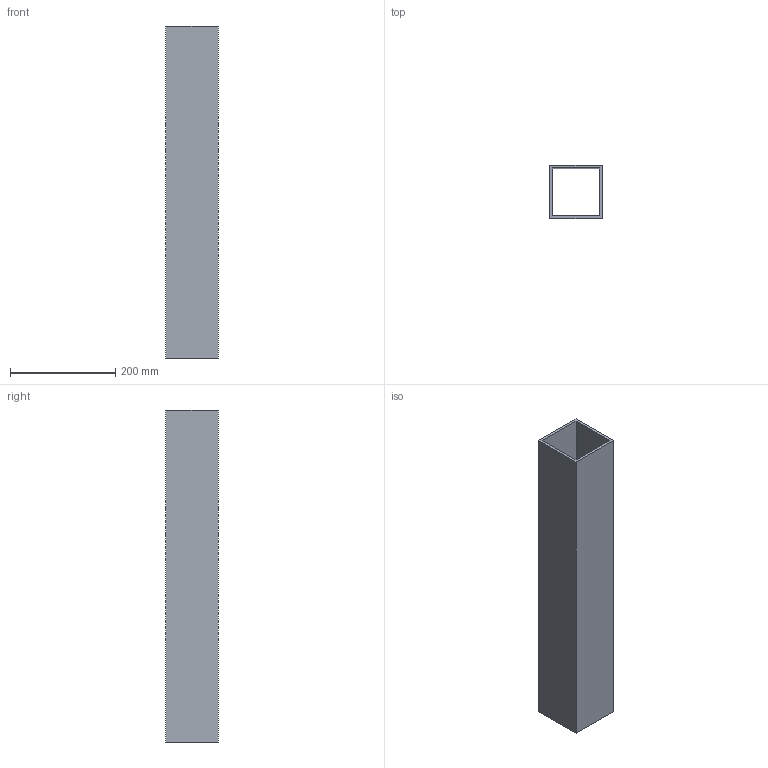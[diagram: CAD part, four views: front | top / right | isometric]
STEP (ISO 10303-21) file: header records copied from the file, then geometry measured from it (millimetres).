
FILE_DESCRIPTION(('Open CASCADE Model'),'2;1');
FILE_NAME('Open CASCADE Shape Model','2026-10-19T10:09:21',('Author'),( 'Open CASCADE'),'Open CASCADE STEP processor 8.0','Open CASCADE 8.0' ,'Unknown');
FILE_SCHEMA(('AUTOMOTIVE_DESIGN { 1 0 10303 214 1 1 1 1 }'));
Length unit declared in the file: millimetre
Products named in the file (1): CORTE_TRAVESANO100x100x5_L630_P05 142
Bounding box: 100 x 100 x 630 mm (x, y, z)
Volume: 1197000 mm3; surface area: 482600 mm2
Topology: 1 solids, 1 shells, 10 faces, 24 edges, 16 vertices
Faces by surface type: plane 10
Entity records: 614 total; most frequent: CARTESIAN_POINT 99, DIRECTION 94, LINE 72, VECTOR 72, ORIENTED_EDGE 48, PCURVE 48, DEFINITIONAL_REPRESENTATION 48, EDGE_CURVE 24
